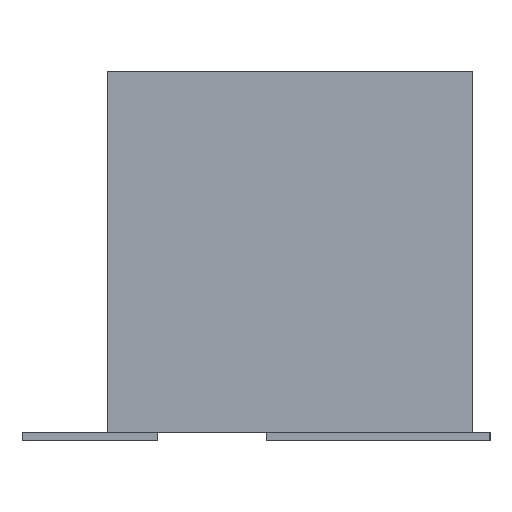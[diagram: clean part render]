
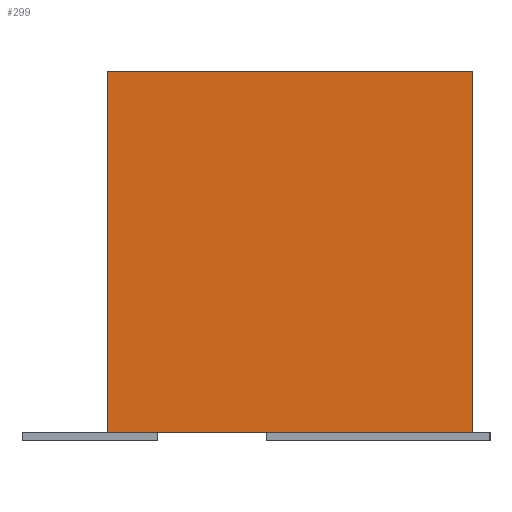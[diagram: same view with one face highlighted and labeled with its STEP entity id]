
A CAD part, left-side view. The second image highlights one B-rep face of the part: STEP entity #299.
In plain terms, the highlighted planar face has unit normal (-1, 0, 0).
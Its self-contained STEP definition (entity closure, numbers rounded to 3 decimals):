
#36 = EDGE_CURVE('',#37,#39,#41,.T.);
#37 = VERTEX_POINT('',#38);
#38 = CARTESIAN_POINT('',(-7.875,-2.225,0.));
#39 = VERTEX_POINT('',#40);
#40 = CARTESIAN_POINT('',(-7.875,-2.225,4.2));
#41 = SURFACE_CURVE('',#42,(#46,#58),.PCURVE_S1.);
#42 = LINE('',#43,#44);
#43 = CARTESIAN_POINT('',(-7.875,-2.225,0.));
#44 = VECTOR('',#45,1.);
#45 = DIRECTION('',(0.,0.,1.));
#46 = PCURVE('',#47,#52);
#47 = PLANE('',#48);
#48 = AXIS2_PLACEMENT_3D('',#49,#50,#51);
#49 = CARTESIAN_POINT('',(-7.875,-2.225,0.));
#50 = DIRECTION('',(0.,1.,0.));
#51 = DIRECTION('',(1.,0.,0.));
#52 = DEFINITIONAL_REPRESENTATION('',(#53),#57);
#53 = LINE('',#54,#55);
#54 = CARTESIAN_POINT('',(0.,0.));
#55 = VECTOR('',#56,1.);
#56 = DIRECTION('',(0.,-1.));
#57 = ( GEOMETRIC_REPRESENTATION_CONTEXT(2) 
PARAMETRIC_REPRESENTATION_CONTEXT() REPRESENTATION_CONTEXT('2D SPACE',''
  ) );
#58 = PCURVE('',#59,#64);
#59 = PLANE('',#60);
#60 = AXIS2_PLACEMENT_3D('',#61,#62,#63);
#61 = CARTESIAN_POINT('',(-7.875,2.025,0.));
#62 = DIRECTION('',(1.,0.,-0.));
#63 = DIRECTION('',(0.,-1.,0.));
#64 = DEFINITIONAL_REPRESENTATION('',(#65),#69);
#65 = LINE('',#66,#67);
#66 = CARTESIAN_POINT('',(4.25,0.));
#67 = VECTOR('',#68,1.);
#68 = DIRECTION('',(0.,-1.));
#69 = ( GEOMETRIC_REPRESENTATION_CONTEXT(2) 
PARAMETRIC_REPRESENTATION_CONTEXT() REPRESENTATION_CONTEXT('2D SPACE',''
  ) );
#87 = PLANE('',#88);
#88 = AXIS2_PLACEMENT_3D('',#89,#90,#91);
#89 = CARTESIAN_POINT('',(0.,-0.1,4.2));
#90 = DIRECTION('',(0.,0.,1.));
#91 = DIRECTION('',(1.,0.,0.));
#141 = PLANE('',#142);
#142 = AXIS2_PLACEMENT_3D('',#143,#144,#145);
#143 = CARTESIAN_POINT('',(0.,-0.1,0.));
#144 = DIRECTION('',(0.,0.,1.));
#145 = DIRECTION('',(1.,0.,0.));
#196 = PLANE('',#197);
#197 = AXIS2_PLACEMENT_3D('',#198,#199,#200);
#198 = CARTESIAN_POINT('',(7.875,2.025,0.));
#199 = DIRECTION('',(0.,-1.,0.));
#200 = DIRECTION('',(-1.,0.,0.));
#234 = VERTEX_POINT('',#235);
#235 = CARTESIAN_POINT('',(-7.875,2.025,4.2));
#256 = EDGE_CURVE('',#257,#234,#259,.T.);
#257 = VERTEX_POINT('',#258);
#258 = CARTESIAN_POINT('',(-7.875,2.025,0.));
#259 = SURFACE_CURVE('',#260,(#264,#271),.PCURVE_S1.);
#260 = LINE('',#261,#262);
#261 = CARTESIAN_POINT('',(-7.875,2.025,0.));
#262 = VECTOR('',#263,1.);
#263 = DIRECTION('',(0.,0.,1.));
#264 = PCURVE('',#196,#265);
#265 = DEFINITIONAL_REPRESENTATION('',(#266),#270);
#266 = LINE('',#267,#268);
#267 = CARTESIAN_POINT('',(15.75,0.));
#268 = VECTOR('',#269,1.);
#269 = DIRECTION('',(0.,-1.));
#270 = ( GEOMETRIC_REPRESENTATION_CONTEXT(2) 
PARAMETRIC_REPRESENTATION_CONTEXT() REPRESENTATION_CONTEXT('2D SPACE',''
  ) );
#271 = PCURVE('',#59,#272);
#272 = DEFINITIONAL_REPRESENTATION('',(#273),#277);
#273 = LINE('',#274,#275);
#274 = CARTESIAN_POINT('',(0.,0.));
#275 = VECTOR('',#276,1.);
#276 = DIRECTION('',(0.,-1.));
#277 = ( GEOMETRIC_REPRESENTATION_CONTEXT(2) 
PARAMETRIC_REPRESENTATION_CONTEXT() REPRESENTATION_CONTEXT('2D SPACE',''
  ) );
#299 = ADVANCED_FACE('',(#300),#59,.F.);
#300 = FACE_BOUND('',#301,.F.);
#301 = EDGE_LOOP('',(#302,#303,#324,#325));
#302 = ORIENTED_EDGE('',*,*,#256,.T.);
#303 = ORIENTED_EDGE('',*,*,#304,.T.);
#304 = EDGE_CURVE('',#234,#39,#305,.T.);
#305 = SURFACE_CURVE('',#306,(#310,#317),.PCURVE_S1.);
#306 = LINE('',#307,#308);
#307 = CARTESIAN_POINT('',(-7.875,2.025,4.2));
#308 = VECTOR('',#309,1.);
#309 = DIRECTION('',(0.,-1.,0.));
#310 = PCURVE('',#59,#311);
#311 = DEFINITIONAL_REPRESENTATION('',(#312),#316);
#312 = LINE('',#313,#314);
#313 = CARTESIAN_POINT('',(0.,-4.2));
#314 = VECTOR('',#315,1.);
#315 = DIRECTION('',(1.,0.));
#316 = ( GEOMETRIC_REPRESENTATION_CONTEXT(2) 
PARAMETRIC_REPRESENTATION_CONTEXT() REPRESENTATION_CONTEXT('2D SPACE',''
  ) );
#317 = PCURVE('',#87,#318);
#318 = DEFINITIONAL_REPRESENTATION('',(#319),#323);
#319 = LINE('',#320,#321);
#320 = CARTESIAN_POINT('',(-7.875,2.125));
#321 = VECTOR('',#322,1.);
#322 = DIRECTION('',(0.,-1.));
#323 = ( GEOMETRIC_REPRESENTATION_CONTEXT(2) 
PARAMETRIC_REPRESENTATION_CONTEXT() REPRESENTATION_CONTEXT('2D SPACE',''
  ) );
#324 = ORIENTED_EDGE('',*,*,#36,.F.);
#325 = ORIENTED_EDGE('',*,*,#326,.F.);
#326 = EDGE_CURVE('',#257,#37,#327,.T.);
#327 = SURFACE_CURVE('',#328,(#332,#339),.PCURVE_S1.);
#328 = LINE('',#329,#330);
#329 = CARTESIAN_POINT('',(-7.875,2.025,0.));
#330 = VECTOR('',#331,1.);
#331 = DIRECTION('',(0.,-1.,0.));
#332 = PCURVE('',#59,#333);
#333 = DEFINITIONAL_REPRESENTATION('',(#334),#338);
#334 = LINE('',#335,#336);
#335 = CARTESIAN_POINT('',(0.,0.));
#336 = VECTOR('',#337,1.);
#337 = DIRECTION('',(1.,0.));
#338 = ( GEOMETRIC_REPRESENTATION_CONTEXT(2) 
PARAMETRIC_REPRESENTATION_CONTEXT() REPRESENTATION_CONTEXT('2D SPACE',''
  ) );
#339 = PCURVE('',#141,#340);
#340 = DEFINITIONAL_REPRESENTATION('',(#341),#345);
#341 = LINE('',#342,#343);
#342 = CARTESIAN_POINT('',(-7.875,2.125));
#343 = VECTOR('',#344,1.);
#344 = DIRECTION('',(0.,-1.));
#345 = ( GEOMETRIC_REPRESENTATION_CONTEXT(2) 
PARAMETRIC_REPRESENTATION_CONTEXT() REPRESENTATION_CONTEXT('2D SPACE',''
  ) );
